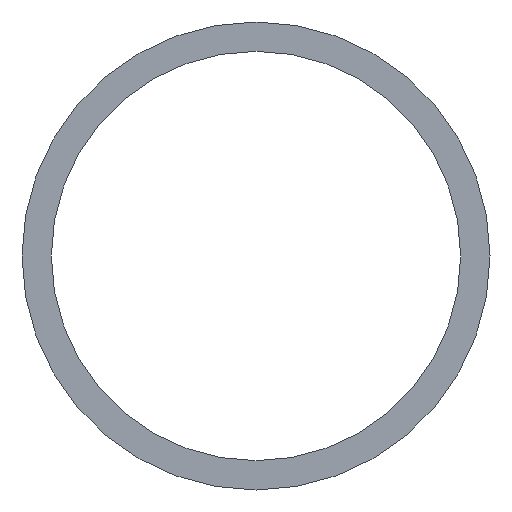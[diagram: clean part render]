
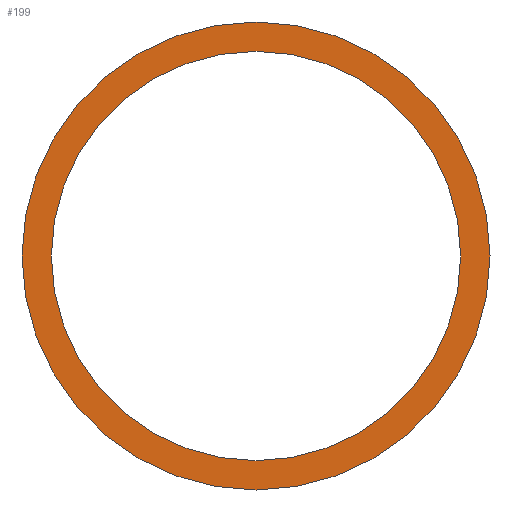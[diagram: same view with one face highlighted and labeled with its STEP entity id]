
A CAD part, left-side view. The second image highlights one B-rep face of the part: STEP entity #199.
In plain terms, the highlighted planar face has unit normal (-1, 0, 0).
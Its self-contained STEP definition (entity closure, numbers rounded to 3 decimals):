
#5 = CARTESIAN_POINT ( 'NONE',  ( -4.987, 0.025, 0. ) ) ;
#13 = CARTESIAN_POINT ( 'NONE',  ( -4.987, 0.025, 0. ) ) ;
#16 = CIRCLE ( 'NONE', #205, 28.5 ) ;
#17 = FACE_BOUND ( 'NONE', #316, .T. ) ;
#19 = EDGE_CURVE ( 'NONE', #321, #166, #16, .T. ) ;
#29 = DIRECTION ( 'NONE',  ( 0., 0., -1. ) ) ;
#37 = DIRECTION ( 'NONE',  ( 1., 0., 0. ) ) ;
#40 = CARTESIAN_POINT ( 'NONE',  ( -4.987, 0.025, 0. ) ) ;
#46 = PLANE ( 'NONE',  #401 ) ;
#65 = AXIS2_PLACEMENT_3D ( 'NONE', #5, #322, #127 ) ;
#72 = EDGE_LOOP ( 'NONE', ( #339, #242 ) ) ;
#79 = EDGE_CURVE ( 'NONE', #376, #159, #276, .T. ) ;
#86 = ORIENTED_EDGE ( 'NONE', *, *, #192, .T. ) ;
#108 = ORIENTED_EDGE ( 'NONE', *, *, #79, .T. ) ;
#127 = DIRECTION ( 'NONE',  ( 0., 0., -1. ) ) ;
#148 = CARTESIAN_POINT ( 'NONE',  ( -4.987, 0.025, 28.5 ) ) ;
#149 = CARTESIAN_POINT ( 'NONE',  ( -4.987, 0.025, -24.929 ) ) ;
#156 = DIRECTION ( 'NONE',  ( -1., 0., 0. ) ) ;
#159 = VERTEX_POINT ( 'NONE', #149 ) ;
#166 = VERTEX_POINT ( 'NONE', #148 ) ;
#185 = CIRCLE ( 'NONE', #65, 24.929 ) ;
#189 = DIRECTION ( 'NONE',  ( 1., 0., 0. ) ) ;
#192 = EDGE_CURVE ( 'NONE', #159, #376, #185, .T. ) ;
#199 = ADVANCED_FACE ( 'NONE', ( #17, #256 ), #46, .T. ) ;
#205 = AXIS2_PLACEMENT_3D ( 'NONE', #13, #189, #317 ) ;
#211 = CIRCLE ( 'NONE', #284, 28.5 ) ;
#216 = DIRECTION ( 'NONE',  ( 1., 0., 0. ) ) ;
#231 = CARTESIAN_POINT ( 'NONE',  ( -4.987, -0.297, 0. ) ) ;
#242 = ORIENTED_EDGE ( 'NONE', *, *, #367, .F. ) ;
#256 = FACE_OUTER_BOUND ( 'NONE', #72, .T. ) ;
#264 = CARTESIAN_POINT ( 'NONE',  ( -4.987, 0.025, 24.929 ) ) ;
#268 = AXIS2_PLACEMENT_3D ( 'NONE', #40, #37, #29 ) ;
#276 = CIRCLE ( 'NONE', #268, 24.929 ) ;
#284 = AXIS2_PLACEMENT_3D ( 'NONE', #365, #216, #299 ) ;
#299 = DIRECTION ( 'NONE',  ( 0., 0., -1. ) ) ;
#316 = EDGE_LOOP ( 'NONE', ( #86, #108 ) ) ;
#317 = DIRECTION ( 'NONE',  ( 0., 0., -1. ) ) ;
#321 = VERTEX_POINT ( 'NONE', #342 ) ;
#322 = DIRECTION ( 'NONE',  ( 1., 0., 0. ) ) ;
#339 = ORIENTED_EDGE ( 'NONE', *, *, #19, .F. ) ;
#342 = CARTESIAN_POINT ( 'NONE',  ( -4.987, 0.025, -28.5 ) ) ;
#345 = DIRECTION ( 'NONE',  ( 0., 0., 1. ) ) ;
#365 = CARTESIAN_POINT ( 'NONE',  ( -4.987, 0.025, 0. ) ) ;
#367 = EDGE_CURVE ( 'NONE', #166, #321, #211, .T. ) ;
#376 = VERTEX_POINT ( 'NONE', #264 ) ;
#401 = AXIS2_PLACEMENT_3D ( 'NONE', #231, #156, #345 ) ;
